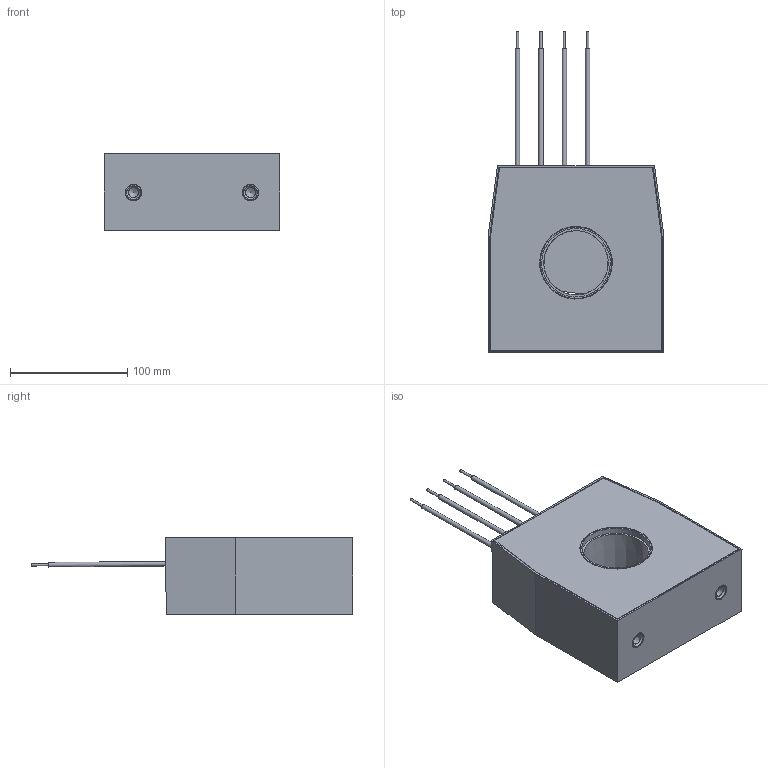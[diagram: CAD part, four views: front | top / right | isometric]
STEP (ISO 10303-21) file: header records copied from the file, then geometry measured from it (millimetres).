
FILE_DESCRIPTION(('STEP AP203'), '1');
FILE_NAME('ÒØÏ-ÍÒÇ-0,66-71Ñ (55 ìì, 1-é ãàáàðèò)', '2025-08-27T09:37:48', ('UNSPECIFIED'), ('UNSPECIFIED'), 'ASCON STEP Converter 1.3', 'ASCON Math Kernel', '');
FILE_SCHEMA(('CONFIG_CONTROL_DESIGN'));
Length unit declared in the file: millimetre
Assembly tree (9 placements, depth 2):
  (unnamed)
    (unnamed)
    (unnamed)
    (unnamed)  x2
    (unnamed)
    (unnamed)  x4
Bounding box: 150 x 274.81 x 65 mm (x, y, z)
Volume: 338538.3 mm3; surface area: 197125.6 mm2
Topology: 9 solids, 9 shells, 115 faces, 228 edges, 147 vertices
Faces by surface type: plane 67, cylinder 33, cone 11, torus 4
Full cylindrical faces by diameter (mm): 2 x4, 3.9 x4, 4 x5, 8.376 x2, 14 x4, 17 x2, 55 x1, 55.05 x1, 58.599 x2, 58.6 x1, 61 x1, 65.05 x1, 68.6 x1
Entity records: 3388 total; most frequent: DIRECTION 406, CARTESIAN_POINT 403, ORIENTED_EDGE 318, EDGE_CURVE 159, AXIS2_PLACEMENT_3D 153, EDGE_LOOP 141, VERTEX_POINT 122, LINE 100
